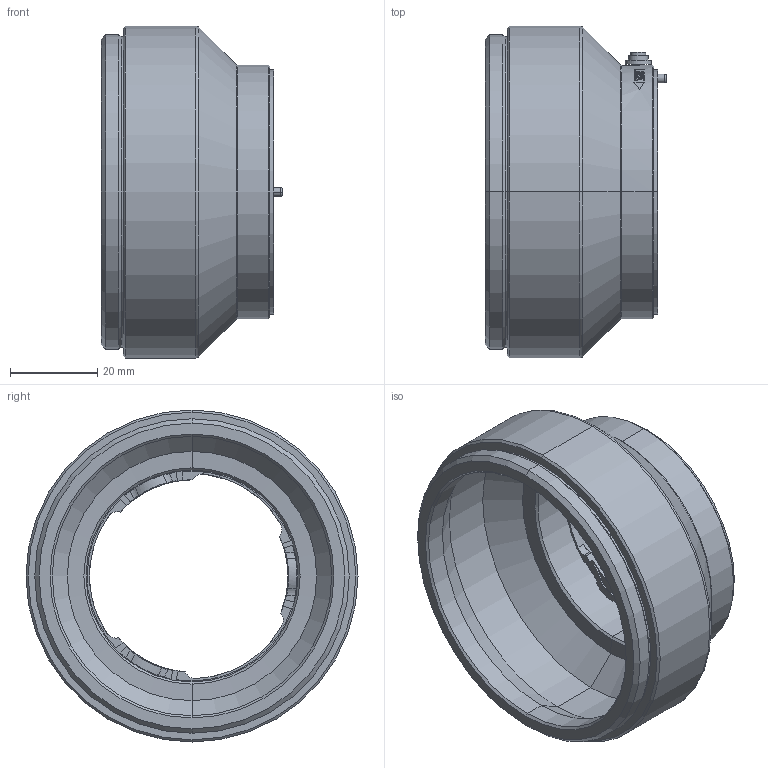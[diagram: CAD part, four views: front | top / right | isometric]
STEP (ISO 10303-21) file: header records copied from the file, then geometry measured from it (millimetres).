
FILE_DESCRIPTION((''),'2;1');
FILE_NAME('DE-14-009572_ASM','2021-11-30T19:37:03',('mafangning'),(''),'CREO PARAMETRIC BY PTC INC, 2020044','CREO PARAMETRIC BY PTC INC, 2020044','');
FILE_SCHEMA(('CONFIG_CONTROL_DESIGN'));
Length unit declared in the file: millimetre
Products named in the file (10): DE-14-009575; DE-14-009574_ASM; DE-14-009576; DE-14-009577; DE-14-009578; DE-14-009579; DE-14-009580; DE-14-009581; DE-14-009573_ASM; DE-14-009572_ASM
Assembly tree (14 placements, depth 4):
  DE-14-009572_ASM
    DE-14-009573_ASM
      DE-14-009574_ASM
        DE-14-009575  x3
      DE-14-009576
      DE-14-009577
      DE-14-009578
      DE-14-009579  x4
      DE-14-009580
      DE-14-009581
Bounding box: 41.5 x 76 x 76 mm (x, y, z)
Volume: 32599.5 mm3; surface area: 23352.7 mm2
Topology: 12 solids, 12 shells, 468 faces, 1205 edges, 781 vertices
Faces by surface type: cylinder 156, plane 147, bspline 113, cone 42, torus 10
Entity records: 25873 total; most frequent: CARTESIAN_POINT 16983, ORIENTED_EDGE 1886, DIRECTION 1688, EDGE_CURVE 943, AXIS2_PLACEMENT_3D 650, VERTEX_POINT 613, EDGE_LOOP 416, VECTOR 388
